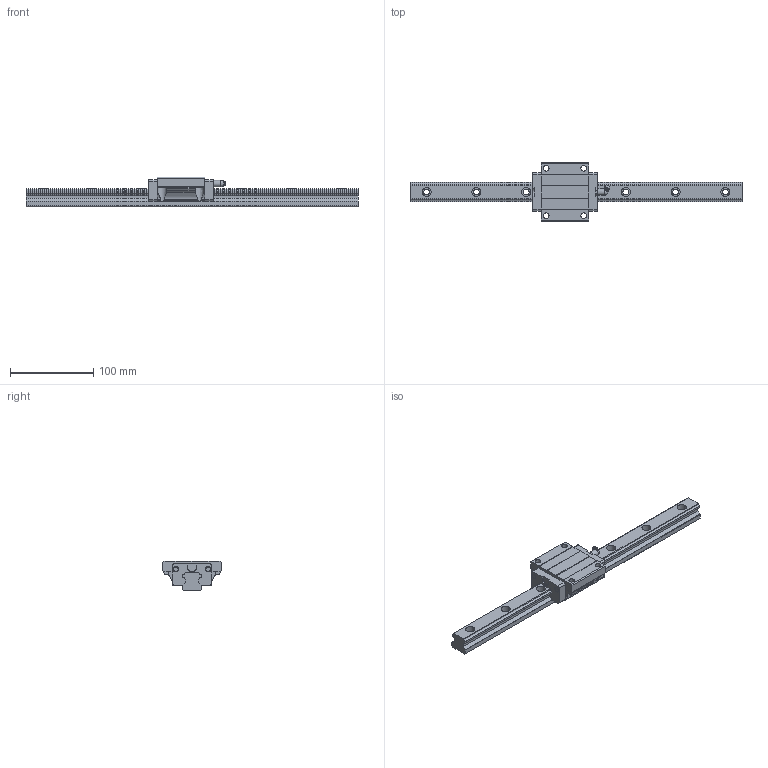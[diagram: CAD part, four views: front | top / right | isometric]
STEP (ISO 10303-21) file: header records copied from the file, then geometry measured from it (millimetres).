
FILE_DESCRIPTION((''),'2;1');
FILE_NAME('D:\製品 (図面)\カタログ用3D\リニアガイド関連\STEP形式\LGH-F\LGH25F.stp','2010-06-02T15:50:37',('Tsuchiya'),(''),'Autodesk Inventor 10','Autodesk Inventor 10','');
FILE_SCHEMA(('AUTOMOTIVE_DESIGN { 1 0 10303 214 1 1 1 1 }'));
Length unit declared in the file: millimetre
Products named in the file (3): LGH25F; LGH25F1; LGH25F2
Assembly tree (2 placements, depth 2):
  LGH25F
    LGH25F1
    LGH25F2
Bounding box: 400 x 70 x 36 mm (x, y, z)
Volume: 260073.9 mm3; surface area: 62166 mm2
Topology: 2 solids, 2 shells, 216 faces, 578 edges, 379 vertices
Faces by surface type: plane 115, cylinder 53, bspline 43, sphere 3, cone 2
Full cylindrical faces by diameter (mm): 5.5 x2, 6.5 x2, 6.647 x2, 7 x1, 7.7 x1
Entity records: 7212 total; most frequent: CARTESIAN_POINT 1913, ORIENTED_EDGE 1072, DIRECTION 1036, EDGE_CURVE 536, VERTEX_POINT 374, VECTOR 352, LINE 352, AXIS2_PLACEMENT_3D 342
